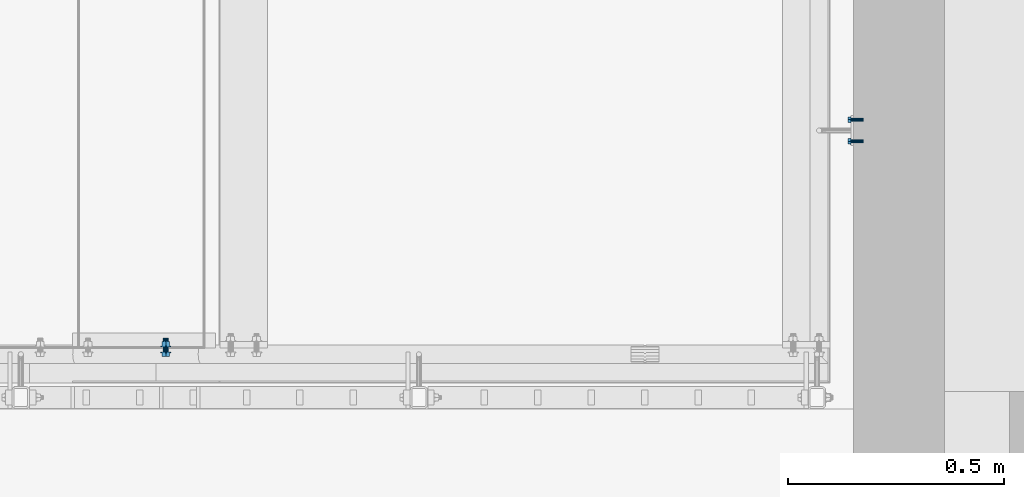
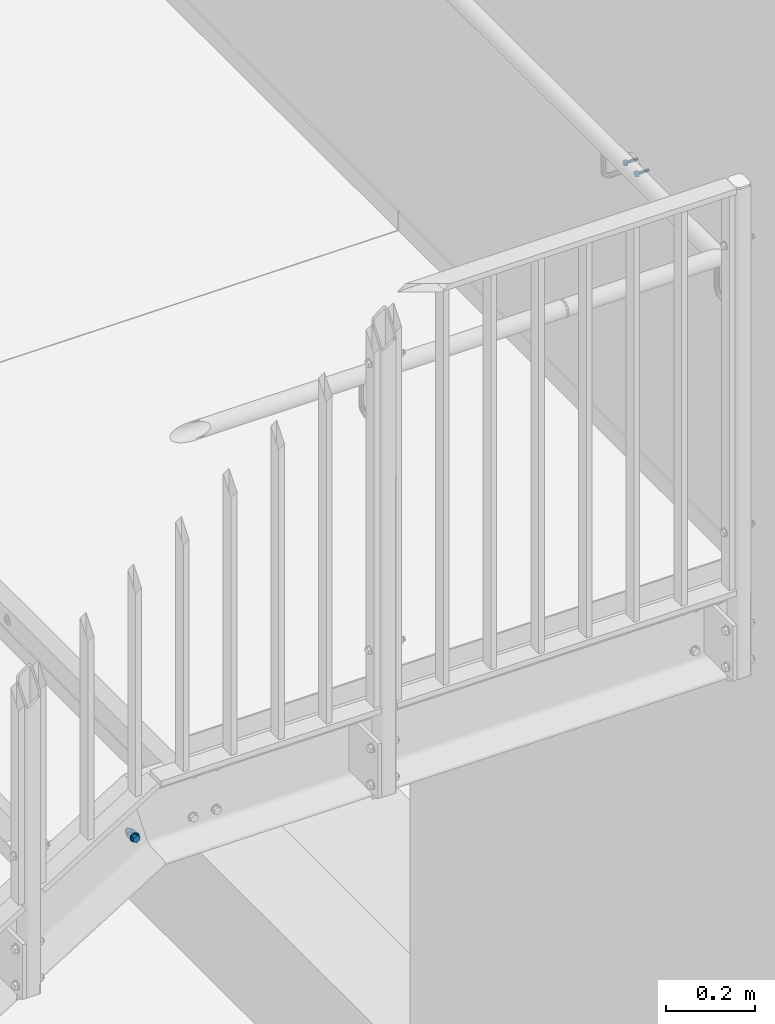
# One storey, part 301 of 410: 2 mechanical fasteners.
"""IFC2X3 building model written with IfcOpenShell, lengths in millimetres."""

import ifcopenshell
import ifcopenshell.guid

model = None  # the IFC model being written
_history = None  # IfcOwnerHistory: only IFC2X3 demands one
_inside = {}  # id of a spatial element -> (the spatial element, [elements in it])
_under = {}  # id of a project, library or spatial element -> (it, [spatial elements below it])
_declared = {}  # id of a project -> (the project, [libraries it declares])
_typed = {}  # id of a type object -> (the type object, [elements of that type])
_made_of = {}  # id of a material, layer set ... -> (it, [elements and type objects made of it])


def new_model(schema):
    """Start an empty IFC model of exactly this schema.

    Asked for "IFC4X3", IfcOpenShell would pick the latest addendum, in which some entities
    have other attributes; the version numbers below select the first issue.
    IFC2X3 requires an IfcOwnerHistory on every rooted entity: one is made here for all.
    """
    global model, _history
    if schema == "IFC4X3":
        model = ifcopenshell.file(schema_version=(4, 3, 0, 0))
    else:
        model = ifcopenshell.file(schema=schema)
    _inside.clear()
    _under.clear()
    _declared.clear()
    _typed.clear()
    _made_of.clear()
    _history = None
    if model.schema == "IFC2X3":
        org = make("IfcOrganization", Name="unknown")
        user = make(
            "IfcPersonAndOrganization",
            ThePerson=make("IfcPerson", FamilyName="unknown"),
            TheOrganization=org,
        )
        app = make(
            "IfcApplication",
            ApplicationDeveloper=org,
            Version="unknown",
            ApplicationFullName="unknown",
            ApplicationIdentifier="unknown",
        )
        _history = make(
            "IfcOwnerHistory",
            OwningUser=user,
            OwningApplication=app,
            ChangeAction="ADDED",
            CreationDate=0,
        )
    return model


def make(cls, **values):
    """One entity of the class cls with the attributes given. An attribute that is None is left unset."""
    return model.create_entity(
        cls, **{name: value for name, value in values.items() if value is not None}
    )


def entity(cls, *values):
    """Any entity or typed value of the class cls, its attributes in the order of the schema. None: left unset."""
    e = model.create_entity(cls)
    for i, value in enumerate(values):
        if value is not None:
            e[i] = value
    return e


def rooted(cls, **values):
    """An entity with a GlobalId (a new one), such as an element, a storey or a relation."""
    return make(cls, GlobalId=ifcopenshell.guid.new(), OwnerHistory=_history, **values)


def si_unit(unit_type, name, prefix=None):
    """IfcSIUnit, for example si_unit("LENGTHUNIT", "METRE", prefix="MILLI")."""
    return make("IfcSIUnit", UnitType=unit_type, Prefix=prefix, Name=name)


def converted_unit(unit_type, name, factor, base, dimensions=None, offset=None):
    """IfcConversionBasedUnit, such as the inch: factor (a typed value) times the base unit."""
    return make(
        "IfcConversionBasedUnit"
        if offset is None
        else "IfcConversionBasedUnitWithOffset",
        ConversionOffset=offset,
        Dimensions=None
        if dimensions is None
        else entity("IfcDimensionalExponents", *dimensions),
        UnitType=unit_type,
        Name=name,
        ConversionFactor=make(
            "IfcMeasureWithUnit", ValueComponent=factor, UnitComponent=base
        ),
    )


def assignment(units):
    """IfcUnitAssignment: the units of a project."""
    return None if units is None else make("IfcUnitAssignment", Units=units)


def point(xyz):
    """IfcCartesianPoint."""
    return None if xyz is None else make("IfcCartesianPoint", Coordinates=xyz)


def direction(xyz):
    """IfcDirection."""
    return None if xyz is None else make("IfcDirection", DirectionRatios=xyz)


def frame(location, z_axis=None, x_axis=None):
    """IfcAxis2Placement3D, a coordinate frame: its origin and axes. An axis left out is left unset."""
    return make(
        "IfcAxis2Placement3D",
        Location=point(location),
        Axis=direction(z_axis),
        RefDirection=direction(x_axis),
    )


def origin_with_axes():
    """The frame at (0, 0, 0) with the z axis (0, 0, 1) and the x axis (1, 0, 0) written out."""
    return frame((0.0, 0.0, 0.0), z_axis=(0.0, 0.0, 1.0), x_axis=(1.0, 0.0, 0.0))


def place(relative_to, where):
    """IfcLocalPlacement: puts the frame where relative to a parent placement (None: the world)."""
    return make(
        "IfcLocalPlacement", PlacementRelTo=relative_to, RelativePlacement=where
    )


def context(
    kind, dimensions, precision=None, world=None, true_north=None, identifier=None
):
    """IfcGeometricRepresentationContext, for example the 3D "Model" context."""
    return make(
        "IfcGeometricRepresentationContext",
        ContextIdentifier=identifier,
        ContextType=kind,
        CoordinateSpaceDimension=dimensions,
        Precision=precision,
        WorldCoordinateSystem=world,
        TrueNorth=true_north,
    )


def project(units=None, contexts=None):
    """IfcProject with its units and contexts."""
    return rooted(
        "IfcProject",
        Name="project",
        RepresentationContexts=contexts,
        UnitsInContext=assignment(units),
    )


def spatial(cls, under=None, at=None, **own):
    """A site, building, storey or space (cls), placed at a placement, below another one or the project."""
    s = rooted(cls, ObjectPlacement=at, **own)
    if under is not None:
        _under.setdefault(under.id(), (under, []))[1].append(s)
    return s


def faces_of(points, faces, orient=None, outer=None):
    """IfcFace entities. A face is a list of loops; a loop is a list of indices into points, from 0.

    orient and outer hold one flag for each loop. By default every Orientation is true, the
    first loop of a face is its IfcFaceOuterBound and the others are IfcFaceBound.
    """
    made = []
    for i, loops in enumerate(faces):
        bounds = []
        for j, loop in enumerate(loops):
            is_outer = j == 0 if outer is None else outer[i][j]
            bounds.append(
                make(
                    "IfcFaceOuterBound" if is_outer else "IfcFaceBound",
                    Bound=make("IfcPolyLoop", Polygon=[points[k] for k in loop]),
                    Orientation=True if orient is None else orient[i][j],
                )
            )
        made.append(make("IfcFace", Bounds=bounds))
    return made


def faceted_brep(points, faces, orient=None, outer=None, voids=None):
    """IfcFacetedBrep: a solid bounded by flat faces; with voids (closed shells), ...WithVoids."""
    shared = [point(p) for p in points]
    hull = make("IfcClosedShell", CfsFaces=faces_of(shared, faces, orient, outer))
    if voids is None:
        return make("IfcFacetedBrep", Outer=hull)
    return make(
        "IfcFacetedBrepWithVoids",
        Outer=hull,
        Voids=[
            make(cls, CfsFaces=faces_of(shared, fs, o, b)) for cls, fs, o, b in voids
        ],
    )


def shape(context_of_items, identifier, shape_type, items):
    """IfcShapeRepresentation: the items that make up one representation, for example the "Body"."""
    return make(
        "IfcShapeRepresentation",
        ContextOfItems=context_of_items,
        RepresentationIdentifier=identifier,
        RepresentationType=shape_type,
        Items=items,
    )


def made_of(thing, what):
    """Note that an element or type object is made of a material, layer set ...; save() writes the relation."""
    if what is not None:
        _made_of.setdefault(what.id(), (what, []))[1].append(thing)
    return thing


def element(
    cls,
    number,
    at=None,
    inside=None,
    cuts=None,
    type_object=None,
    material=None,
    context=None,
    identifier="Body",
    shape_type=None,
    held_by="IfcProductDefinitionShape",
    body=None,
    shapes=None,
    **own,
):
    """One element of the class cls, such as IfcWall. Its Tag is "e" and its number.

    at: its placement. inside: the storey or other place that contains it. cuts: it is an
    opening in that element (IfcRelVoidsElement). A single representation is given by context,
    identifier, shape_type and body (its items); several are given by shapes. held_by: the class
    of the entity that holds the representations. save() writes the other relations.
    """
    e = rooted(cls, Tag="e%d" % number, ObjectPlacement=at, **own)
    if body is not None:
        shapes = [shape(context, identifier, shape_type, body)]
    if shapes is not None:
        e.Representation = make(held_by, Representations=shapes)
    if inside is not None:
        _inside.setdefault(inside.id(), (inside, []))[1].append(e)
    if cuts is not None:
        rooted(
            "IfcRelVoidsElement", RelatingBuildingElement=cuts, RelatedOpeningElement=e
        )
    if type_object is not None:
        _typed.setdefault(type_object.id(), (type_object, []))[1].append(e)
    return made_of(e, material)


def aggregate(whole, parts):
    """IfcRelAggregates: a whole, such as a stair, and the parts it consists of."""
    return rooted("IfcRelAggregates", RelatingObject=whole, RelatedObjects=parts)


def save(model, path):
    """Write the relations noted so far, then the file.

    IfcRelAggregates (storeys below a building ...), IfcRelContainedInSpatialStructure (elements
    in a storey), IfcRelDefinesByType, IfcRelAssociatesMaterial and IfcRelDeclares: one each for
    every whole, place, type object, material and project.
    """
    for whole, parts in _under.values():
        aggregate(whole, parts)
    for where, things in _inside.values():
        rooted(
            "IfcRelContainedInSpatialStructure",
            RelatedElements=things,
            RelatingStructure=where,
        )
    for kind, things in _typed.values():
        rooted("IfcRelDefinesByType", RelatedObjects=things, RelatingType=kind)
    for what, things in _made_of.values():
        rooted("IfcRelAssociatesMaterial", RelatedObjects=things, RelatingMaterial=what)
    for by, libraries in _declared.values():
        rooted("IfcRelDeclares", RelatingContext=by, RelatedDefinitions=libraries)
    model.write(path)


model = new_model("IFC2X3")

# Units and contexts
model_context = context("Model", 3, precision=1e-09, world=origin_with_axes())
ifc_project = project(units=[si_unit("LENGTHUNIT", "METRE", prefix="MILLI"), si_unit("AREAUNIT", "SQUARE_METRE"), si_unit("VOLUMEUNIT", "CUBIC_METRE"), converted_unit("PLANEANGLEUNIT", "DEGREE", entity("IfcPlaneAngleMeasure", 0.01745329), si_unit("PLANEANGLEUNIT", "RADIAN"), dimensions=[0, 0, 0, 0, 0, 0, 0])], contexts=[model_context])

# Site, building, storey
site_placement = place(None, origin_with_axes())
site = spatial("IfcSite", under=ifc_project, at=site_placement, Name="mKR Teilneubau & Sanierung BA1 - Ostfildern", CompositionType="ELEMENT")
building_placement = place(site_placement, origin_with_axes())
building = spatial("IfcBuilding", under=site, at=building_placement, Name="Struktur 1", CompositionType="ELEMENT")
storey_placement = place(building_placement, origin_with_axes())
storey = spatial("IfcBuildingStorey", under=building, at=storey_placement, Name="Default Storey", CompositionType="ELEMENT", Elevation=0.0)

# Mechanical fasteners
mechanical_fastener_1_placement = place(None, origin_with_axes())
element("IfcMechanicalFastener", 1, at=mechanical_fastener_1_placement, inside=storey, ObjectType="Bolt", NominalDiameter=12.0, NominalLength=35.0, context=model_context, shape_type="Brep", body=[
    faceted_brep([(1688.0, 15508.499999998, -2379.4), (1688.0, 15510.999999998, -2379.4), (1688.230576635, 15510.999999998, -2381.741083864), (1688.230576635, 15508.499999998, -2381.741083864), (1688.91344561, 15510.999999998, -2383.992201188), (1688.91344561, 15508.499999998, -2383.992201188), (1690.022364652, 15510.999999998, -2386.066842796), (1690.022364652, 15508.499999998, -2386.066842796), (1691.514718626, 15510.999999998, -2387.885281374), (1691.514718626, 15508.499999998, -2387.885281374), (1693.333157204, 15510.999999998, -2389.377635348), (1693.333157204, 15508.499999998, -2389.377635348), (1695.407798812, 15510.999999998, -2390.48655439), (1695.407798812, 15508.499999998, -2390.48655439), (1697.658916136, 15510.999999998, -2391.169423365), (1697.658916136, 15508.499999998, -2391.169423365), (1700.0, 15510.999999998, -2391.4), (1700.0, 15508.499999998, -2391.4), (1702.341083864, 15510.999999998, -2391.169423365), (1702.341083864, 15508.499999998, -2391.169423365), (1704.592201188, 15510.999999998, -2390.48655439), (1704.592201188, 15508.499999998, -2390.48655439), (1706.666842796, 15510.999999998, -2389.377635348), (1706.666842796, 15508.499999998, -2389.377635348), (1708.485281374, 15510.999999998, -2387.885281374), (1708.485281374, 15508.499999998, -2387.885281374), (1709.977635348, 15510.999999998, -2386.066842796), (1709.977635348, 15508.499999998, -2386.066842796), (1711.08655439, 15510.999999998, -2383.992201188), (1711.08655439, 15508.499999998, -2383.992201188), (1711.769423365, 15510.999999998, -2381.741083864), (1711.769423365, 15508.499999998, -2381.741083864), (1712.0, 15510.999999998, -2379.4), (1712.0, 15508.499999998, -2379.4), (1711.769423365, 15510.999999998, -2377.058916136), (1711.769423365, 15508.499999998, -2377.058916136), (1711.08655439, 15510.999999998, -2374.807798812), (1711.08655439, 15508.499999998, -2374.807798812), (1709.977635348, 15510.999999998, -2372.733157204), (1709.977635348, 15508.499999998, -2372.733157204), (1708.485281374, 15510.999999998, -2370.914718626), (1708.485281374, 15508.499999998, -2370.914718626), (1706.666842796, 15510.999999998, -2369.422364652), (1706.666842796, 15508.499999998, -2369.422364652), (1704.592201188, 15510.999999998, -2368.31344561), (1704.592201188, 15508.499999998, -2368.31344561), (1702.341083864, 15510.999999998, -2367.630576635), (1702.341083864, 15508.499999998, -2367.630576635), (1700.0, 15510.999999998, -2367.4), (1700.0, 15508.499999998, -2367.4), (1697.658916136, 15510.999999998, -2367.630576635), (1697.658916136, 15508.499999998, -2367.630576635), (1695.407798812, 15510.999999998, -2368.31344561), (1695.407798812, 15508.499999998, -2368.31344561), (1693.333157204, 15510.999999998, -2369.422364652), (1693.333157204, 15508.499999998, -2369.422364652), (1691.514718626, 15510.999999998, -2370.914718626), (1691.514718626, 15508.499999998, -2370.914718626), (1690.022364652, 15510.999999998, -2372.733157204), (1690.022364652, 15508.499999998, -2372.733157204), (1688.91344561, 15510.999999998, -2374.807798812), (1688.91344561, 15508.499999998, -2374.807798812), (1688.230576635, 15510.999999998, -2377.058916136), (1688.230576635, 15508.499999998, -2377.058916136)], [[[0, 1, 2, 3]], [[3, 2, 4, 5]], [[5, 4, 6, 7]], [[7, 6, 8, 9]], [[9, 8, 10, 11]], [[11, 10, 12, 13]], [[13, 12, 14, 15]], [[15, 14, 16, 17]], [[17, 16, 18, 19]], [[19, 18, 20, 21]], [[21, 20, 22, 23]], [[23, 22, 24, 25]], [[25, 24, 26, 27]], [[27, 26, 28, 29]], [[29, 28, 30, 31]], [[31, 30, 32, 33]], [[33, 32, 34, 35]], [[35, 34, 36, 37]], [[37, 36, 38, 39]], [[39, 38, 40, 41]], [[41, 40, 42, 43]], [[43, 42, 44, 45]], [[45, 44, 46, 47]], [[47, 46, 48, 49]], [[49, 48, 50, 51]], [[51, 50, 52, 53]], [[53, 52, 54, 55]], [[55, 54, 56, 57]], [[57, 56, 58, 59]], [[59, 58, 60, 61]], [[61, 60, 62, 63]], [[63, 62, 1, 0]], [[0, 3, 5, 7, 9, 11, 13, 15, 17, 19, 21, 23, 25, 27, 29, 31, 33, 35, 37, 39, 41, 43, 45, 47, 49, 51, 53, 55, 57, 59, 61, 63]], [[1, 62, 60, 58, 56, 54, 52, 50, 48, 46, 44, 42, 40, 38, 36, 34, 32, 30, 28, 26, 24, 22, 20, 18, 16, 14, 12, 10, 8, 6, 4, 2]]]),
    faceted_brep([(1708.673244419, 15508.499999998, -2384.4075), (1708.673244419, 15500.999999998, -2384.4075), (1700.0, 15500.999999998, -2389.415), (1700.0, 15508.499999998, -2389.415), (1691.326755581, 15500.999999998, -2384.4075), (1691.326755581, 15508.499999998, -2384.4075), (1691.326755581, 15500.999999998, -2374.3925), (1691.326755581, 15508.499999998, -2374.3925), (1700.0, 15500.999999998, -2369.385), (1700.0, 15508.499999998, -2369.385), (1708.673244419, 15500.999999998, -2374.3925), (1708.673244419, 15508.499999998, -2374.3925)], [[[0, 1, 2, 3]], [[3, 2, 4, 5]], [[5, 4, 6, 7]], [[7, 6, 8, 9]], [[9, 8, 10, 11]], [[11, 10, 1, 0]], [[4, 2, 1, 10, 8, 6]], [[0, 3, 5, 7, 9, 11]]]),
    faceted_brep([(1694.0, 15510.999999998, -2379.4), (1694.0, 15522.999999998, -2379.4), (1694.456722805, 15522.999999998, -2381.696100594), (1694.456722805, 15510.999999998, -2381.696100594), (1695.757359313, 15522.999999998, -2383.642640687), (1695.757359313, 15510.999999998, -2383.642640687), (1697.703899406, 15522.999999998, -2384.943277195), (1697.703899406, 15510.999999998, -2384.943277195), (1700.0, 15522.999999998, -2385.4), (1700.0, 15510.999999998, -2385.4), (1702.296100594, 15522.999999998, -2384.943277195), (1702.296100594, 15510.999999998, -2384.943277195), (1704.242640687, 15522.999999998, -2383.642640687), (1704.242640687, 15510.999999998, -2383.642640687), (1705.543277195, 15522.999999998, -2381.696100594), (1705.543277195, 15510.999999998, -2381.696100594), (1706.0, 15522.999999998, -2379.4), (1706.0, 15510.999999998, -2379.4), (1705.543277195, 15522.999999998, -2377.103899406), (1705.543277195, 15510.999999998, -2377.103899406), (1704.242640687, 15522.999999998, -2375.157359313), (1704.242640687, 15510.999999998, -2375.157359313), (1702.296100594, 15522.999999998, -2373.856722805), (1702.296100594, 15510.999999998, -2373.856722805), (1700.0, 15522.999999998, -2373.4), (1700.0, 15510.999999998, -2373.4), (1697.703899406, 15522.999999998, -2373.856722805), (1697.703899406, 15510.999999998, -2373.856722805), (1695.757359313, 15522.999999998, -2375.157359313), (1695.757359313, 15510.999999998, -2375.157359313), (1694.456722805, 15522.999999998, -2377.103899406), (1694.456722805, 15510.999999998, -2377.103899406)], [[[0, 1, 2, 3]], [[3, 2, 4, 5]], [[5, 4, 6, 7]], [[7, 6, 8, 9]], [[9, 8, 10, 11]], [[11, 10, 12, 13]], [[13, 12, 14, 15]], [[15, 14, 16, 17]], [[17, 16, 18, 19]], [[19, 18, 20, 21]], [[21, 20, 22, 23]], [[23, 22, 24, 25]], [[25, 24, 26, 27]], [[27, 26, 28, 29]], [[29, 28, 30, 31]], [[31, 30, 1, 0]], [[0, 3, 5, 7, 9, 11, 13, 15, 17, 19, 21, 23, 25, 27, 29, 31]], [[1, 30, 28, 26, 24, 22, 20, 18, 16, 14, 12, 10, 8, 6, 4, 2]]]),
    faceted_brep([(1688.0, 15522.999999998, -2379.4), (1688.0, 15525.499999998, -2379.4), (1688.230576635, 15525.499999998, -2381.741083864), (1688.230576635, 15522.999999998, -2381.741083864), (1688.91344561, 15525.499999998, -2383.992201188), (1688.91344561, 15522.999999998, -2383.992201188), (1690.022364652, 15525.499999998, -2386.066842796), (1690.022364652, 15522.999999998, -2386.066842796), (1691.514718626, 15525.499999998, -2387.885281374), (1691.514718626, 15522.999999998, -2387.885281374), (1693.333157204, 15525.499999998, -2389.377635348), (1693.333157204, 15522.999999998, -2389.377635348), (1695.407798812, 15525.499999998, -2390.48655439), (1695.407798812, 15522.999999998, -2390.48655439), (1697.658916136, 15525.499999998, -2391.169423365), (1697.658916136, 15522.999999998, -2391.169423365), (1700.0, 15525.499999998, -2391.4), (1700.0, 15522.999999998, -2391.4), (1702.341083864, 15525.499999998, -2391.169423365), (1702.341083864, 15522.999999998, -2391.169423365), (1704.592201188, 15525.499999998, -2390.48655439), (1704.592201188, 15522.999999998, -2390.48655439), (1706.666842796, 15525.499999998, -2389.377635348), (1706.666842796, 15522.999999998, -2389.377635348), (1708.485281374, 15525.499999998, -2387.885281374), (1708.485281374, 15522.999999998, -2387.885281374), (1709.977635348, 15525.499999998, -2386.066842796), (1709.977635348, 15522.999999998, -2386.066842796), (1711.08655439, 15525.499999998, -2383.992201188), (1711.08655439, 15522.999999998, -2383.992201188), (1711.769423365, 15525.499999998, -2381.741083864), (1711.769423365, 15522.999999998, -2381.741083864), (1712.0, 15525.499999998, -2379.4), (1712.0, 15522.999999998, -2379.4), (1711.769423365, 15525.499999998, -2377.058916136), (1711.769423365, 15522.999999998, -2377.058916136), (1711.08655439, 15525.499999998, -2374.807798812), (1711.08655439, 15522.999999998, -2374.807798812), (1709.977635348, 15525.499999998, -2372.733157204), (1709.977635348, 15522.999999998, -2372.733157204), (1708.485281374, 15525.499999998, -2370.914718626), (1708.485281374, 15522.999999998, -2370.914718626), (1706.666842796, 15525.499999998, -2369.422364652), (1706.666842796, 15522.999999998, -2369.422364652), (1704.592201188, 15525.499999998, -2368.31344561), (1704.592201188, 15522.999999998, -2368.31344561), (1702.341083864, 15525.499999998, -2367.630576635), (1702.341083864, 15522.999999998, -2367.630576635), (1700.0, 15525.499999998, -2367.4), (1700.0, 15522.999999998, -2367.4), (1697.658916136, 15525.499999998, -2367.630576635), (1697.658916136, 15522.999999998, -2367.630576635), (1695.407798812, 15525.499999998, -2368.31344561), (1695.407798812, 15522.999999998, -2368.31344561), (1693.333157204, 15525.499999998, -2369.422364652), (1693.333157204, 15522.999999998, -2369.422364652), (1691.514718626, 15525.499999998, -2370.914718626), (1691.514718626, 15522.999999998, -2370.914718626), (1690.022364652, 15525.499999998, -2372.733157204), (1690.022364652, 15522.999999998, -2372.733157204), (1688.91344561, 15525.499999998, -2374.807798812), (1688.91344561, 15522.999999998, -2374.807798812), (1688.230576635, 15525.499999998, -2377.058916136), (1688.230576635, 15522.999999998, -2377.058916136)], [[[0, 1, 2, 3]], [[3, 2, 4, 5]], [[5, 4, 6, 7]], [[7, 6, 8, 9]], [[9, 8, 10, 11]], [[11, 10, 12, 13]], [[13, 12, 14, 15]], [[15, 14, 16, 17]], [[17, 16, 18, 19]], [[19, 18, 20, 21]], [[21, 20, 22, 23]], [[23, 22, 24, 25]], [[25, 24, 26, 27]], [[27, 26, 28, 29]], [[29, 28, 30, 31]], [[31, 30, 32, 33]], [[33, 32, 34, 35]], [[35, 34, 36, 37]], [[37, 36, 38, 39]], [[39, 38, 40, 41]], [[41, 40, 42, 43]], [[43, 42, 44, 45]], [[45, 44, 46, 47]], [[47, 46, 48, 49]], [[49, 48, 50, 51]], [[51, 50, 52, 53]], [[53, 52, 54, 55]], [[55, 54, 56, 57]], [[57, 56, 58, 59]], [[59, 58, 60, 61]], [[61, 60, 62, 63]], [[63, 62, 1, 0]], [[0, 3, 5, 7, 9, 11, 13, 15, 17, 19, 21, 23, 25, 27, 29, 31, 33, 35, 37, 39, 41, 43, 45, 47, 49, 51, 53, 55, 57, 59, 61, 63]], [[1, 62, 60, 58, 56, 54, 52, 50, 48, 46, 44, 42, 40, 38, 36, 34, 32, 30, 28, 26, 24, 22, 20, 18, 16, 14, 12, 10, 8, 6, 4, 2]]]),
    faceted_brep([(1709.13656801, 15535.499999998, -2384.675), (1709.13656801, 15525.499999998, -2384.675), (1700.0, 15525.499999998, -2389.95), (1700.0, 15535.499999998, -2389.95), (1690.86343199, 15525.499999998, -2384.675), (1690.86343199, 15535.499999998, -2384.675), (1690.86343199, 15525.499999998, -2374.125), (1690.86343199, 15535.499999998, -2374.125), (1700.0, 15525.499999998, -2368.85), (1700.0, 15535.499999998, -2368.85), (1709.13656801, 15525.499999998, -2374.125), (1709.13656801, 15535.499999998, -2374.125)], [[[0, 1, 2, 3]], [[3, 2, 4, 5]], [[5, 4, 6, 7]], [[7, 6, 8, 9]], [[9, 8, 10, 11]], [[11, 10, 1, 0]], [[4, 2, 1, 10, 8, 6]], [[0, 3, 5, 7, 9, 11]]]),
    faceted_brep([(1694.0, 15535.499999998, -2379.4), (1694.0, 15543.499999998, -2379.4), (1694.456722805, 15543.499999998, -2381.696100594), (1694.456722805, 15535.499999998, -2381.696100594), (1695.757359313, 15543.499999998, -2383.642640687), (1695.757359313, 15535.499999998, -2383.642640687), (1697.703899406, 15543.499999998, -2384.943277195), (1697.703899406, 15535.499999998, -2384.943277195), (1700.0, 15543.499999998, -2385.4), (1700.0, 15535.499999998, -2385.4), (1702.296100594, 15543.499999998, -2384.943277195), (1702.296100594, 15535.499999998, -2384.943277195), (1704.242640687, 15543.499999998, -2383.642640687), (1704.242640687, 15535.499999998, -2383.642640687), (1705.543277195, 15543.499999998, -2381.696100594), (1705.543277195, 15535.499999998, -2381.696100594), (1706.0, 15543.499999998, -2379.4), (1706.0, 15535.499999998, -2379.4), (1705.543277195, 15543.499999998, -2377.103899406), (1705.543277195, 15535.499999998, -2377.103899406), (1704.242640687, 15543.499999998, -2375.157359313), (1704.242640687, 15535.499999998, -2375.157359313), (1702.296100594, 15543.499999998, -2373.856722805), (1702.296100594, 15535.499999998, -2373.856722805), (1700.0, 15543.499999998, -2373.4), (1700.0, 15535.499999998, -2373.4), (1697.703899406, 15543.499999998, -2373.856722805), (1697.703899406, 15535.499999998, -2373.856722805), (1695.757359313, 15543.499999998, -2375.157359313), (1695.757359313, 15535.499999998, -2375.157359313), (1694.456722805, 15543.499999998, -2377.103899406), (1694.456722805, 15535.499999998, -2377.103899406)], [[[0, 1, 2, 3]], [[3, 2, 4, 5]], [[5, 4, 6, 7]], [[7, 6, 8, 9]], [[9, 8, 10, 11]], [[11, 10, 12, 13]], [[13, 12, 14, 15]], [[15, 14, 16, 17]], [[17, 16, 18, 19]], [[19, 18, 20, 21]], [[21, 20, 22, 23]], [[23, 22, 24, 25]], [[25, 24, 26, 27]], [[27, 26, 28, 29]], [[29, 28, 30, 31]], [[31, 30, 1, 0]], [[0, 3, 5, 7, 9, 11, 13, 15, 17, 19, 21, 23, 25, 27, 29, 31]], [[1, 30, 28, 26, 24, 22, 20, 18, 16, 14, 12, 10, 8, 6, 4, 2]]]),
])
mechanical_fastener_2_placement = place(None, origin_with_axes())
element("IfcMechanicalFastener", 2, at=mechanical_fastener_2_placement, inside=storey, ObjectType="-", NominalDiameter=8.0, NominalLength=30.0, context=model_context, shape_type="Brep", body=[
    faceted_brep([(3282.399216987, 16006.000030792, -1413.0), (3283.999216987, 16006.000030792, -1413.0), (3283.999216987, 16005.846313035, -1414.560722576), (3282.399216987, 16005.846313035, -1414.560722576), (3283.999216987, 16005.391067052, -1416.061467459), (3282.399216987, 16005.391067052, -1416.061467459), (3283.999216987, 16004.65178769, -1417.444561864), (3282.399216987, 16004.65178769, -1417.444561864), (3283.999216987, 16003.656885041, -1418.65685425), (3282.399216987, 16003.656885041, -1418.65685425), (3283.999216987, 16002.444592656, -1419.651756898), (3282.399216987, 16002.444592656, -1419.651756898), (3283.999216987, 16001.061498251, -1420.39103626), (3282.399216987, 16001.061498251, -1420.39103626), (3283.999216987, 15999.560753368, -1420.846282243), (3282.399216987, 15999.560753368, -1420.846282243), (3283.999216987, 15998.000030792, -1421.0), (3282.399216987, 15998.000030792, -1421.0), (3283.999216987, 15996.439308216, -1420.846282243), (3282.399216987, 15996.439308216, -1420.846282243), (3283.999216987, 15994.938563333, -1420.39103626), (3282.399216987, 15994.938563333, -1420.39103626), (3283.999216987, 15993.555468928, -1419.651756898), (3282.399216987, 15993.555468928, -1419.651756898), (3283.999216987, 15992.343176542, -1418.65685425), (3282.399216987, 15992.343176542, -1418.65685425), (3283.999216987, 15991.348273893, -1417.444561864), (3282.399216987, 15991.348273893, -1417.444561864), (3283.999216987, 15990.608994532, -1416.061467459), (3282.399216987, 15990.608994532, -1416.061467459), (3283.999216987, 15990.153748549, -1414.560722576), (3282.399216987, 15990.153748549, -1414.560722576), (3283.999216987, 15990.000030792, -1413.0), (3282.399216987, 15990.000030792, -1413.0), (3283.999216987, 15990.153748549, -1411.439277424), (3282.399216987, 15990.153748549, -1411.439277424), (3283.999216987, 15990.608994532, -1409.938532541), (3282.399216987, 15990.608994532, -1409.938532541), (3283.999216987, 15991.348273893, -1408.555438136), (3282.399216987, 15991.348273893, -1408.555438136), (3283.999216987, 15992.343176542, -1407.343145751), (3282.399216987, 15992.343176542, -1407.343145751), (3283.999216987, 15993.555468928, -1406.348243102), (3282.399216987, 15993.555468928, -1406.348243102), (3283.999216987, 15994.938563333, -1405.60896374), (3282.399216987, 15994.938563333, -1405.60896374), (3283.999216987, 15996.439308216, -1405.153717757), (3282.399216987, 15996.439308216, -1405.153717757), (3283.999216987, 15998.000030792, -1405.0), (3282.399216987, 15998.000030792, -1405.0), (3283.999216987, 15999.560753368, -1405.153717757), (3282.399216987, 15999.560753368, -1405.153717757), (3283.999216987, 16001.061498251, -1405.60896374), (3282.399216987, 16001.061498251, -1405.60896374), (3283.999216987, 16002.444592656, -1406.348243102), (3282.399216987, 16002.444592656, -1406.348243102), (3283.999216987, 16003.656885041, -1407.343145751), (3282.399216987, 16003.656885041, -1407.343145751), (3283.999216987, 16004.65178769, -1408.555438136), (3282.399216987, 16004.65178769, -1408.555438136), (3283.999216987, 16005.391067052, -1409.938532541), (3282.399216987, 16005.391067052, -1409.938532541), (3283.999216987, 16005.846313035, -1411.439277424), (3282.399216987, 16005.846313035, -1411.439277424)], [[[0, 1, 2, 3]], [[3, 2, 4, 5]], [[5, 4, 6, 7]], [[7, 6, 8, 9]], [[9, 8, 10, 11]], [[11, 10, 12, 13]], [[13, 12, 14, 15]], [[15, 14, 16, 17]], [[17, 16, 18, 19]], [[19, 18, 20, 21]], [[21, 20, 22, 23]], [[23, 22, 24, 25]], [[25, 24, 26, 27]], [[27, 26, 28, 29]], [[29, 28, 30, 31]], [[31, 30, 32, 33]], [[33, 32, 34, 35]], [[35, 34, 36, 37]], [[37, 36, 38, 39]], [[39, 38, 40, 41]], [[41, 40, 42, 43]], [[43, 42, 44, 45]], [[45, 44, 46, 47]], [[47, 46, 48, 49]], [[49, 48, 50, 51]], [[51, 50, 52, 53]], [[53, 52, 54, 55]], [[55, 54, 56, 57]], [[57, 56, 58, 59]], [[59, 58, 60, 61]], [[61, 60, 62, 63]], [[63, 62, 1, 0]], [[0, 3, 5, 7, 9, 11, 13, 15, 17, 19, 21, 23, 25, 27, 29, 31, 33, 35, 37, 39, 41, 43, 45, 47, 49, 51, 53, 55, 57, 59, 61, 63]], [[1, 62, 60, 58, 56, 54, 52, 50, 48, 46, 44, 42, 40, 38, 36, 34, 32, 30, 28, 26, 24, 22, 20, 18, 16, 14, 12, 10, 8, 6, 4, 2]]]),
    faceted_brep([(3282.399216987, 16056.000030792, -1413.0), (3283.999216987, 16056.000030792, -1413.0), (3283.999216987, 16055.846313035, -1414.560722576), (3282.399216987, 16055.846313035, -1414.560722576), (3283.999216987, 16055.391067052, -1416.061467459), (3282.399216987, 16055.391067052, -1416.061467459), (3283.999216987, 16054.65178769, -1417.444561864), (3282.399216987, 16054.65178769, -1417.444561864), (3283.999216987, 16053.656885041, -1418.65685425), (3282.399216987, 16053.656885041, -1418.65685425), (3283.999216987, 16052.444592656, -1419.651756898), (3282.399216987, 16052.444592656, -1419.651756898), (3283.999216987, 16051.061498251, -1420.39103626), (3282.399216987, 16051.061498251, -1420.39103626), (3283.999216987, 16049.560753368, -1420.846282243), (3282.399216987, 16049.560753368, -1420.846282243), (3283.999216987, 16048.000030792, -1421.0), (3282.399216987, 16048.000030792, -1421.0), (3283.999216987, 16046.439308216, -1420.846282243), (3282.399216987, 16046.439308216, -1420.846282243), (3283.999216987, 16044.938563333, -1420.39103626), (3282.399216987, 16044.938563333, -1420.39103626), (3283.999216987, 16043.555468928, -1419.651756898), (3282.399216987, 16043.555468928, -1419.651756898), (3283.999216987, 16042.343176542, -1418.65685425), (3282.399216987, 16042.343176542, -1418.65685425), (3283.999216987, 16041.348273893, -1417.444561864), (3282.399216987, 16041.348273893, -1417.444561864), (3283.999216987, 16040.608994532, -1416.061467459), (3282.399216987, 16040.608994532, -1416.061467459), (3283.999216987, 16040.153748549, -1414.560722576), (3282.399216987, 16040.153748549, -1414.560722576), (3283.999216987, 16040.000030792, -1413.0), (3282.399216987, 16040.000030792, -1413.0), (3283.999216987, 16040.153748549, -1411.439277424), (3282.399216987, 16040.153748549, -1411.439277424), (3283.999216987, 16040.608994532, -1409.938532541), (3282.399216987, 16040.608994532, -1409.938532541), (3283.999216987, 16041.348273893, -1408.555438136), (3282.399216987, 16041.348273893, -1408.555438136), (3283.999216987, 16042.343176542, -1407.343145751), (3282.399216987, 16042.343176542, -1407.343145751), (3283.999216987, 16043.555468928, -1406.348243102), (3282.399216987, 16043.555468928, -1406.348243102), (3283.999216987, 16044.938563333, -1405.60896374), (3282.399216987, 16044.938563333, -1405.60896374), (3283.999216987, 16046.439308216, -1405.153717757), (3282.399216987, 16046.439308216, -1405.153717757), (3283.999216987, 16048.000030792, -1405.0), (3282.399216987, 16048.000030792, -1405.0), (3283.999216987, 16049.560753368, -1405.153717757), (3282.399216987, 16049.560753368, -1405.153717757), (3283.999216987, 16051.061498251, -1405.60896374), (3282.399216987, 16051.061498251, -1405.60896374), (3283.999216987, 16052.444592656, -1406.348243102), (3282.399216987, 16052.444592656, -1406.348243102), (3283.999216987, 16053.656885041, -1407.343145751), (3282.399216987, 16053.656885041, -1407.343145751), (3283.999216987, 16054.65178769, -1408.555438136), (3282.399216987, 16054.65178769, -1408.555438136), (3283.999216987, 16055.391067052, -1409.938532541), (3282.399216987, 16055.391067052, -1409.938532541), (3283.999216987, 16055.846313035, -1411.439277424), (3282.399216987, 16055.846313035, -1411.439277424)], [[[0, 1, 2, 3]], [[3, 2, 4, 5]], [[5, 4, 6, 7]], [[7, 6, 8, 9]], [[9, 8, 10, 11]], [[11, 10, 12, 13]], [[13, 12, 14, 15]], [[15, 14, 16, 17]], [[17, 16, 18, 19]], [[19, 18, 20, 21]], [[21, 20, 22, 23]], [[23, 22, 24, 25]], [[25, 24, 26, 27]], [[27, 26, 28, 29]], [[29, 28, 30, 31]], [[31, 30, 32, 33]], [[33, 32, 34, 35]], [[35, 34, 36, 37]], [[37, 36, 38, 39]], [[39, 38, 40, 41]], [[41, 40, 42, 43]], [[43, 42, 44, 45]], [[45, 44, 46, 47]], [[47, 46, 48, 49]], [[49, 48, 50, 51]], [[51, 50, 52, 53]], [[53, 52, 54, 55]], [[55, 54, 56, 57]], [[57, 56, 58, 59]], [[59, 58, 60, 61]], [[61, 60, 62, 63]], [[63, 62, 1, 0]], [[0, 3, 5, 7, 9, 11, 13, 15, 17, 19, 21, 23, 25, 27, 29, 31, 33, 35, 37, 39, 41, 43, 45, 47, 49, 51, 53, 55, 57, 59, 61, 63]], [[1, 62, 60, 58, 56, 54, 52, 50, 48, 46, 44, 42, 40, 38, 36, 34, 32, 30, 28, 26, 24, 22, 20, 18, 16, 14, 12, 10, 8, 6, 4, 2]]]),
    faceted_brep([(3282.399216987, 15991.773308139, -1416.595), (3277.099216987, 15991.773308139, -1416.595), (3277.099216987, 15998.000030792, -1420.19), (3282.399216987, 15998.000030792, -1420.19), (3277.099216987, 16004.226753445, -1416.595), (3282.399216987, 16004.226753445, -1416.595), (3277.099216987, 16004.226753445, -1409.405), (3282.399216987, 16004.226753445, -1409.405), (3277.099216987, 15998.000030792, -1405.81), (3282.399216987, 15998.000030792, -1405.81), (3277.099216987, 15991.773308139, -1409.405), (3282.399216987, 15991.773308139, -1409.405)], [[[0, 1, 2, 3]], [[3, 2, 4, 5]], [[5, 4, 6, 7]], [[7, 6, 8, 9]], [[9, 8, 10, 11]], [[11, 10, 1, 0]], [[4, 2, 1, 10, 8, 6]], [[0, 3, 5, 7, 9, 11]]]),
    faceted_brep([(3282.399216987, 16041.773308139, -1416.595), (3277.099216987, 16041.773308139, -1416.595), (3277.099216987, 16048.000030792, -1420.19), (3282.399216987, 16048.000030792, -1420.19), (3277.099216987, 16054.226753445, -1416.595), (3282.399216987, 16054.226753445, -1416.595), (3277.099216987, 16054.226753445, -1409.405), (3282.399216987, 16054.226753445, -1409.405), (3277.099216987, 16048.000030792, -1405.81), (3282.399216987, 16048.000030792, -1405.81), (3277.099216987, 16041.773308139, -1409.405), (3282.399216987, 16041.773308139, -1409.405)], [[[0, 1, 2, 3]], [[3, 2, 4, 5]], [[5, 4, 6, 7]], [[7, 6, 8, 9]], [[9, 8, 10, 11]], [[11, 10, 1, 0]], [[4, 2, 1, 10, 8, 6]], [[0, 3, 5, 7, 9, 11]]]),
    faceted_brep([(3283.999216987, 16002.000030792, -1413.0), (3293.999216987, 16002.000030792, -1413.0), (3293.999216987, 16001.695548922, -1414.530733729), (3283.999216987, 16001.695548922, -1414.530733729), (3293.999216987, 16000.828457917, -1415.828427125), (3283.999216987, 16000.828457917, -1415.828427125), (3293.999216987, 15999.530764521, -1416.69551813), (3283.999216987, 15999.530764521, -1416.69551813), (3293.999216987, 15998.000030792, -1417.0), (3283.999216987, 15998.000030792, -1417.0), (3293.999216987, 15996.469297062, -1416.69551813), (3283.999216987, 15996.469297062, -1416.69551813), (3293.999216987, 15995.171603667, -1415.828427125), (3283.999216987, 15995.171603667, -1415.828427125), (3293.999216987, 15994.304512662, -1414.530733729), (3283.999216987, 15994.304512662, -1414.530733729), (3293.999216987, 15994.000030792, -1413.0), (3283.999216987, 15994.000030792, -1413.0), (3293.999216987, 15994.304512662, -1411.469266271), (3283.999216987, 15994.304512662, -1411.469266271), (3293.999216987, 15995.171603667, -1410.171572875), (3283.999216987, 15995.171603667, -1410.171572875), (3293.999216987, 15996.469297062, -1409.30448187), (3283.999216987, 15996.469297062, -1409.30448187), (3293.999216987, 15998.000030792, -1409.0), (3283.999216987, 15998.000030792, -1409.0), (3293.999216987, 15999.530764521, -1409.30448187), (3283.999216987, 15999.530764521, -1409.30448187), (3293.999216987, 16000.828457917, -1410.171572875), (3283.999216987, 16000.828457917, -1410.171572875), (3293.999216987, 16001.695548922, -1411.469266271), (3283.999216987, 16001.695548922, -1411.469266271)], [[[0, 1, 2, 3]], [[3, 2, 4, 5]], [[5, 4, 6, 7]], [[7, 6, 8, 9]], [[9, 8, 10, 11]], [[11, 10, 12, 13]], [[13, 12, 14, 15]], [[15, 14, 16, 17]], [[17, 16, 18, 19]], [[19, 18, 20, 21]], [[21, 20, 22, 23]], [[23, 22, 24, 25]], [[25, 24, 26, 27]], [[27, 26, 28, 29]], [[29, 28, 30, 31]], [[31, 30, 1, 0]], [[0, 3, 5, 7, 9, 11, 13, 15, 17, 19, 21, 23, 25, 27, 29, 31]], [[1, 30, 28, 26, 24, 22, 20, 18, 16, 14, 12, 10, 8, 6, 4, 2]]]),
    faceted_brep([(3283.999216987, 16052.000030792, -1413.0), (3293.999216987, 16052.000030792, -1413.0), (3293.999216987, 16051.695548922, -1414.530733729), (3283.999216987, 16051.695548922, -1414.530733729), (3293.999216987, 16050.828457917, -1415.828427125), (3283.999216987, 16050.828457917, -1415.828427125), (3293.999216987, 16049.530764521, -1416.69551813), (3283.999216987, 16049.530764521, -1416.69551813), (3293.999216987, 16048.000030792, -1417.0), (3283.999216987, 16048.000030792, -1417.0), (3293.999216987, 16046.469297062, -1416.69551813), (3283.999216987, 16046.469297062, -1416.69551813), (3293.999216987, 16045.171603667, -1415.828427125), (3283.999216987, 16045.171603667, -1415.828427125), (3293.999216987, 16044.304512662, -1414.530733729), (3283.999216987, 16044.304512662, -1414.530733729), (3293.999216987, 16044.000030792, -1413.0), (3283.999216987, 16044.000030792, -1413.0), (3293.999216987, 16044.304512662, -1411.469266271), (3283.999216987, 16044.304512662, -1411.469266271), (3293.999216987, 16045.171603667, -1410.171572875), (3283.999216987, 16045.171603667, -1410.171572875), (3293.999216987, 16046.469297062, -1409.30448187), (3283.999216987, 16046.469297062, -1409.30448187), (3293.999216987, 16048.000030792, -1409.0), (3283.999216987, 16048.000030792, -1409.0), (3293.999216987, 16049.530764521, -1409.30448187), (3283.999216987, 16049.530764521, -1409.30448187), (3293.999216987, 16050.828457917, -1410.171572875), (3283.999216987, 16050.828457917, -1410.171572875), (3293.999216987, 16051.695548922, -1411.469266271), (3283.999216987, 16051.695548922, -1411.469266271)], [[[0, 1, 2, 3]], [[3, 2, 4, 5]], [[5, 4, 6, 7]], [[7, 6, 8, 9]], [[9, 8, 10, 11]], [[11, 10, 12, 13]], [[13, 12, 14, 15]], [[15, 14, 16, 17]], [[17, 16, 18, 19]], [[19, 18, 20, 21]], [[21, 20, 22, 23]], [[23, 22, 24, 25]], [[25, 24, 26, 27]], [[27, 26, 28, 29]], [[29, 28, 30, 31]], [[31, 30, 1, 0]], [[0, 3, 5, 7, 9, 11, 13, 15, 17, 19, 21, 23, 25, 27, 29, 31]], [[1, 30, 28, 26, 24, 22, 20, 18, 16, 14, 12, 10, 8, 6, 4, 2]]]),
    faceted_brep([(3293.999216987, 16002.000030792, -1413.0), (3312.399216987, 16002.000030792, -1413.0), (3312.399216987, 16001.695548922, -1414.530733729), (3293.999216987, 16001.695548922, -1414.530733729), (3312.399216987, 16000.828457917, -1415.828427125), (3293.999216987, 16000.828457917, -1415.828427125), (3312.399216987, 15999.530764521, -1416.69551813), (3293.999216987, 15999.530764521, -1416.69551813), (3312.399216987, 15998.000030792, -1417.0), (3293.999216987, 15998.000030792, -1417.0), (3312.399216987, 15996.469297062, -1416.69551813), (3293.999216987, 15996.469297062, -1416.69551813), (3312.399216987, 15995.171603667, -1415.828427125), (3293.999216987, 15995.171603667, -1415.828427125), (3312.399216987, 15994.304512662, -1414.530733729), (3293.999216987, 15994.304512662, -1414.530733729), (3312.399216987, 15994.000030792, -1413.0), (3293.999216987, 15994.000030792, -1413.0), (3312.399216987, 15994.304512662, -1411.469266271), (3293.999216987, 15994.304512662, -1411.469266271), (3312.399216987, 15995.171603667, -1410.171572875), (3293.999216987, 15995.171603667, -1410.171572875), (3312.399216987, 15996.469297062, -1409.30448187), (3293.999216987, 15996.469297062, -1409.30448187), (3312.399216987, 15998.000030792, -1409.0), (3293.999216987, 15998.000030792, -1409.0), (3312.399216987, 15999.530764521, -1409.30448187), (3293.999216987, 15999.530764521, -1409.30448187), (3312.399216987, 16000.828457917, -1410.171572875), (3293.999216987, 16000.828457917, -1410.171572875), (3312.399216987, 16001.695548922, -1411.469266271), (3293.999216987, 16001.695548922, -1411.469266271)], [[[0, 1, 2, 3]], [[3, 2, 4, 5]], [[5, 4, 6, 7]], [[7, 6, 8, 9]], [[9, 8, 10, 11]], [[11, 10, 12, 13]], [[13, 12, 14, 15]], [[15, 14, 16, 17]], [[17, 16, 18, 19]], [[19, 18, 20, 21]], [[21, 20, 22, 23]], [[23, 22, 24, 25]], [[25, 24, 26, 27]], [[27, 26, 28, 29]], [[29, 28, 30, 31]], [[31, 30, 1, 0]], [[0, 3, 5, 7, 9, 11, 13, 15, 17, 19, 21, 23, 25, 27, 29, 31]], [[1, 30, 28, 26, 24, 22, 20, 18, 16, 14, 12, 10, 8, 6, 4, 2]]]),
    faceted_brep([(3293.999216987, 16052.000030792, -1413.0), (3312.399216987, 16052.000030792, -1413.0), (3312.399216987, 16051.695548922, -1414.530733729), (3293.999216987, 16051.695548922, -1414.530733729), (3312.399216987, 16050.828457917, -1415.828427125), (3293.999216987, 16050.828457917, -1415.828427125), (3312.399216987, 16049.530764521, -1416.69551813), (3293.999216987, 16049.530764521, -1416.69551813), (3312.399216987, 16048.000030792, -1417.0), (3293.999216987, 16048.000030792, -1417.0), (3312.399216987, 16046.469297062, -1416.69551813), (3293.999216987, 16046.469297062, -1416.69551813), (3312.399216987, 16045.171603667, -1415.828427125), (3293.999216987, 16045.171603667, -1415.828427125), (3312.399216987, 16044.304512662, -1414.530733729), (3293.999216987, 16044.304512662, -1414.530733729), (3312.399216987, 16044.000030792, -1413.0), (3293.999216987, 16044.000030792, -1413.0), (3312.399216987, 16044.304512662, -1411.469266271), (3293.999216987, 16044.304512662, -1411.469266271), (3312.399216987, 16045.171603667, -1410.171572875), (3293.999216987, 16045.171603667, -1410.171572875), (3312.399216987, 16046.469297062, -1409.30448187), (3293.999216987, 16046.469297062, -1409.30448187), (3312.399216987, 16048.000030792, -1409.0), (3293.999216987, 16048.000030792, -1409.0), (3312.399216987, 16049.530764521, -1409.30448187), (3293.999216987, 16049.530764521, -1409.30448187), (3312.399216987, 16050.828457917, -1410.171572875), (3293.999216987, 16050.828457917, -1410.171572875), (3312.399216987, 16051.695548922, -1411.469266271), (3293.999216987, 16051.695548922, -1411.469266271)], [[[0, 1, 2, 3]], [[3, 2, 4, 5]], [[5, 4, 6, 7]], [[7, 6, 8, 9]], [[9, 8, 10, 11]], [[11, 10, 12, 13]], [[13, 12, 14, 15]], [[15, 14, 16, 17]], [[17, 16, 18, 19]], [[19, 18, 20, 21]], [[21, 20, 22, 23]], [[23, 22, 24, 25]], [[25, 24, 26, 27]], [[27, 26, 28, 29]], [[29, 28, 30, 31]], [[31, 30, 1, 0]], [[0, 3, 5, 7, 9, 11, 13, 15, 17, 19, 21, 23, 25, 27, 29, 31]], [[1, 30, 28, 26, 24, 22, 20, 18, 16, 14, 12, 10, 8, 6, 4, 2]]]),
])

save(model, "model.ifc")
